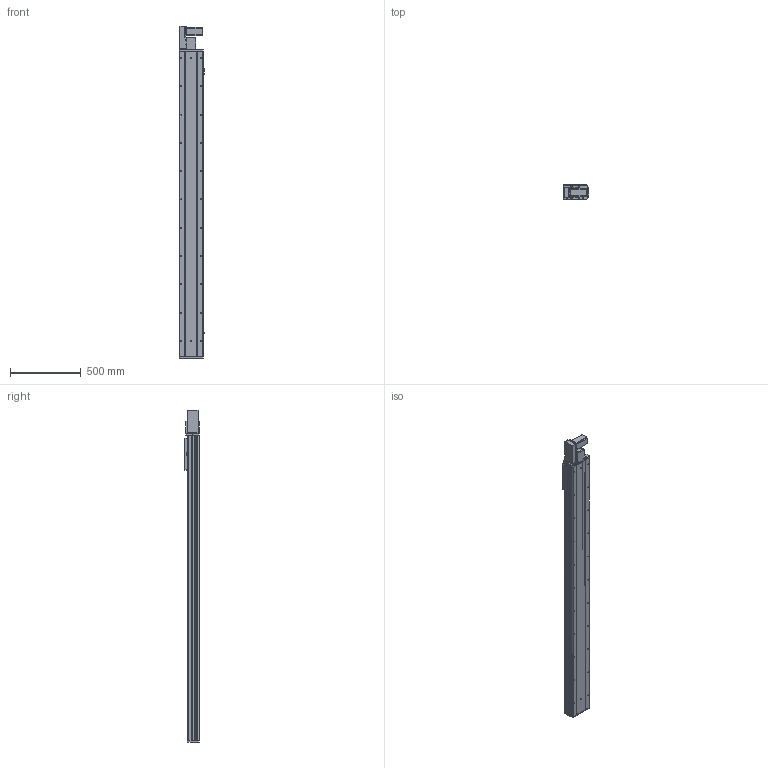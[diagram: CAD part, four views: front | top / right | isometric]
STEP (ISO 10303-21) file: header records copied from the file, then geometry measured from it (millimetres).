
FILE_DESCRIPTION (( 'STEP AP203' ), '1' );
FILE_NAME ('Y170CB-D105-S1850-BL-P400W.STEP', '2020-02-20T01:34:27', ( '微软用户' ), ( '微软中国' ), 'SwSTEP 2.0', 'SolidWorks 2017', '' );
FILE_SCHEMA (( 'CONFIG_CONTROL_DESIGN' ));
Length unit declared in the file: millimetre
Products named in the file (18): 70C-雄赽釱-奻-; 0B-萇儂楊擘啣; 0C--雄赽釱俋欶-170; san松下电机400不带刹车----; 70CB-詩湍--; Y70俋欶BR----; Y100-135俋离換覜ん--; 70CB-掛极-; Y170CB-陔俋离換覜結え---; --70CB --喘謫眊楊擘啣-; 70B喘謫眊----; 70CB-耜裔啣-; Y1埴倛裔; 70C--詩湍揤踡え-; B-源倛裔啣; Y170CB-D105-S1850-BL-P400W; 70CB--耜裔; 17B-耜蚾蟀諉啣----
Assembly tree (21 placements, depth 2):
  Y170CB-D105-S1850-BL-P400W
    B-源倛裔啣
    17B-耜蚾蟀諉啣----
    0B-萇儂楊擘啣
    san松下电机400不带刹车----
    Y70俋欶BR----
    70CB-掛极-
    --70CB --喘謫眊楊擘啣-
    70CB-耜裔啣-  x2
    70C--詩湍揤踡え-  x2
    70CB--耜裔
    70C-雄赽釱-奻-
    0C--雄赽釱俋欶-170
    70CB-詩湍--
    Y100-135俋离換覜ん--  x3
    Y170CB-陔俋离換覜結え---
    70B喘謫眊----
    Y1埴倛裔
Bounding box: 183.5 x 107 x 2347 mm (x, y, z)
Volume: 9884703.5 mm3; surface area: 3559634.3 mm2
Topology: 21 solids, 21 shells, 1039 faces, 2789 edges, 1850 vertices
Faces by surface type: cylinder 551, plane 464, cone 24
Entity records: 33196 total; most frequent: CARTESIAN_POINT 6096, DIRECTION 5398, ORIENTED_EDGE 5060, EDGE_CURVE 2530, AXIS2_PLACEMENT_3D 1984, VERTEX_POINT 1680, VECTOR 1430, LINE 1430
